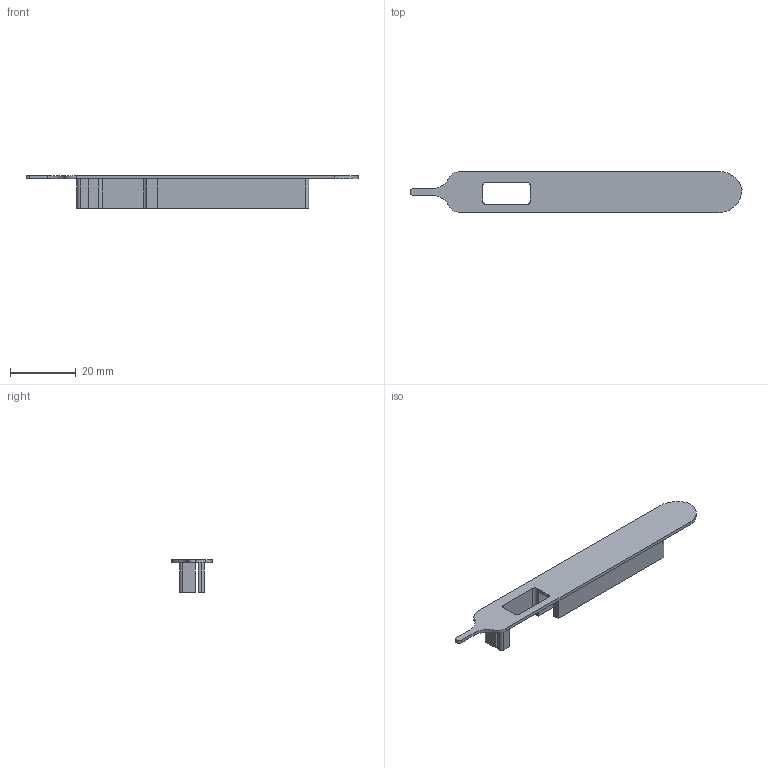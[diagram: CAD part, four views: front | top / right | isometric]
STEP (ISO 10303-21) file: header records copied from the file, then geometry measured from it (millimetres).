
FILE_DESCRIPTION(/* description */ (''),/* implementation_level */ '2;1');
FILE_NAME(/* name */ 'front panel.step',/* time_stamp */ '2025-09-12T21:20:31+02:00',/* author */ (''),/* organization */ (''),/* preprocessor_version */ 'ST-DEVELOPER v20.1',/* originating_system */ 'Autodesk Translation Framework v14.10.0.0',/* authorisation */ '');
FILE_SCHEMA (('AUTOMOTIVE_DESIGN { 1 0 10303 214 3 1 1 }'));
Length unit declared in the file: millimetre
Products named in the file (1): case tipo3
Bounding box: 101 x 12.5 x 10 mm (x, y, z)
Volume: 3476.2 mm3; surface area: 4671.3 mm2
Topology: 1 solids, 1 shells, 45 faces, 123 edges, 82 vertices
Faces by surface type: plane 30, cylinder 15
Entity records: 1460 total; most frequent: CARTESIAN_POINT 251, ORIENTED_EDGE 246, DIRECTION 245, EDGE_CURVE 123, LINE 93, VECTOR 93, VERTEX_POINT 82, AXIS2_PLACEMENT_3D 76
